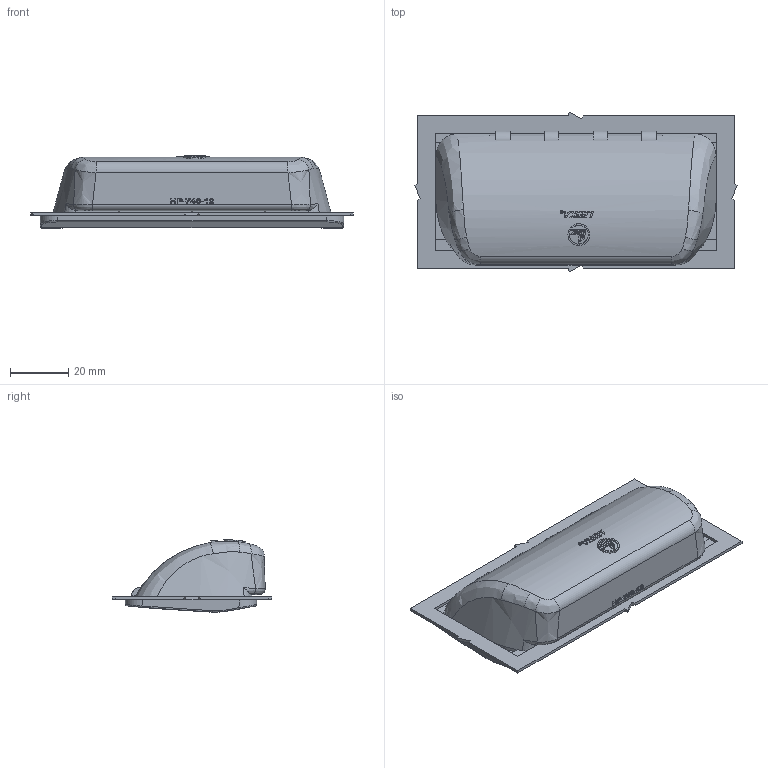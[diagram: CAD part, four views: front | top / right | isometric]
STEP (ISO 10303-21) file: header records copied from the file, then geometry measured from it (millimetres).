
FILE_DESCRIPTION (( 'STEP AP203' ), '1' );
FILE_NAME ('HP-746-12.STEP', '2015-11-23T06:48:23', ( '' ), ( '' ), 'SwSTEP 2.0', 'SolidWorks 2014', '' );
FILE_SCHEMA (( 'CONFIG_CONTROL_DESIGN' ));
Length unit declared in the file: millimetre
Products named in the file (1): HP-746-12
Bounding box: 110.5 x 54.52 x 24.77 mm (x, y, z)
Volume: 21386.9 mm3; surface area: 23368.7 mm2
Topology: 2 solids, 2 shells, 444 faces, 1185 edges, 764 vertices
Faces by surface type: plane 225, bspline 115, cylinder 104
Entity records: 19109 total; most frequent: CARTESIAN_POINT 9437, ORIENTED_EDGE 2362, DIRECTION 1370, EDGE_CURVE 1181, VERTEX_POINT 764, LINE 590, VECTOR 590, B_SPLINE_CURVE_WITH_KNOTS 518
